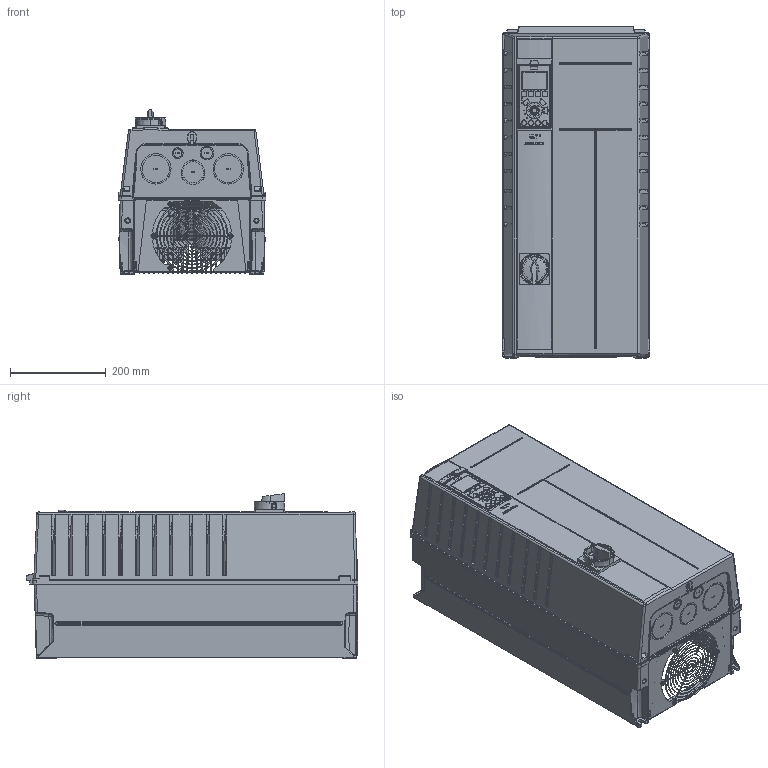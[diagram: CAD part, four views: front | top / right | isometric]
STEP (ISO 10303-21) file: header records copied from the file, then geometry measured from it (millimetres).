
FILE_DESCRIPTION((''),'2;1');
FILE_NAME('DANFOSS-FC200-C1-IP21-SWITCH','2011-10-13T',('cstephenkumar'),('Be-Atch INC. 1993'),'PRO/ENGINEER BY PARAMETRIC TECHNOLOGY CORPORATION, 2009360','PRO/ENGINEER BY PARAMETRIC TECHNOLOGY CORPORATION, 2009360','');
FILE_SCHEMA(('AUTOMOTIVE_DESIGN { 1 0 10303 214 1 1 1 1 }'));
Length unit declared in the file: millimetre
Products named in the file (1): DANFOSS-FC200-C1-IP21-SWITCH
Bounding box: 308.54 x 692.9 x 343.53 mm (x, y, z)
Volume: 42180570.5 mm3; surface area: 3380220.4 mm2
Topology: 1 solids, 22 shells, 5208 faces, 13640 edges, 8413 vertices
Faces by surface type: plane 1851, cylinder 1546, bspline 1117, cone 382, torus 275, sphere 28, extrusion 9
Entity records: 212637 total; most frequent: CARTESIAN_POINT 92661, ORIENTED_EDGE 27136, DIRECTION 21335, EDGE_CURVE 13568, VERTEX_POINT 8411, AXIS2_PLACEMENT_3D 7396, VECTOR 6543, LINE 6534
